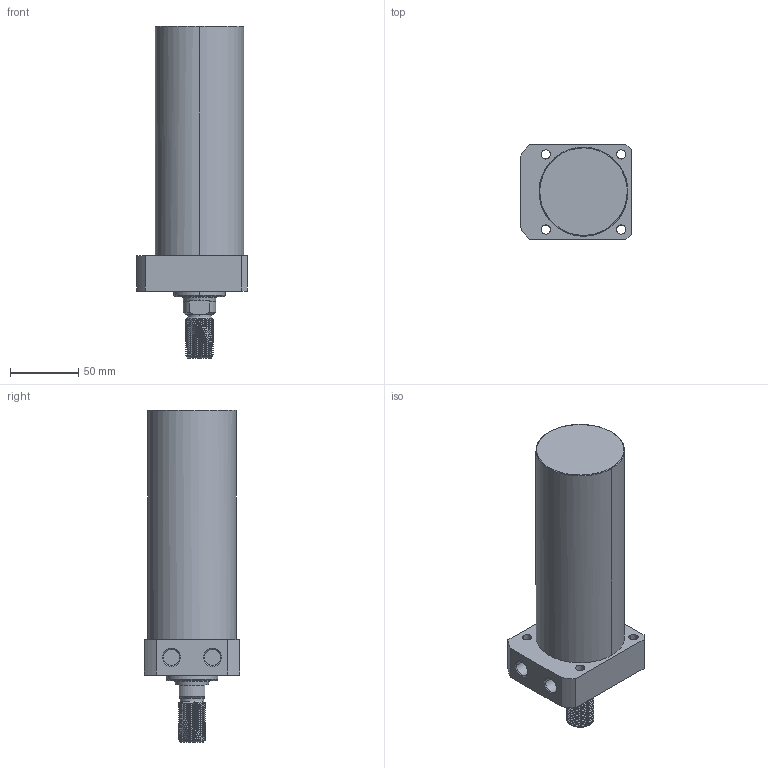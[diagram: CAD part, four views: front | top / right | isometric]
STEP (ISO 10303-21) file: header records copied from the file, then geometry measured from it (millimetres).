
FILE_DESCRIPTION((' '),'2;1');
FILE_NAME( 'TLLR-065CT-135.STEP.stp', '2025-10-24T16:35:01', (' '), ('--- Datakit www.datakit.com---'), ' Datakit CrossCadWare V2024.1 Dec 21 2023', 'Mastercam 2025', ' ');
FILE_SCHEMA(('AUTOMOTIVE_DESIGN { 1 0 10303 214 1 1 1 1 }'));
Length unit declared in the file: millimetre
Products named in the file (1): TLLR-065CT-135
Bounding box: 81 x 70 x 243 mm (x, y, z)
Volume: 713850.8 mm3; surface area: 60956.6 mm2
Topology: 1 solids, 1 shells, 106 faces, 381 edges, 285 vertices
Faces by surface type: cylinder 66, plane 20, cone 16, bspline 2, torus 2
Entity records: 12362 total; most frequent: CARTESIAN_POINT 9112, ORIENTED_EDGE 762, DIRECTION 531, EDGE_CURVE 381, VERTEX_POINT 285, AXIS2_PLACEMENT_3D 214, B_SPLINE_CURVE_WITH_KNOTS 169, EDGE_LOOP 122
